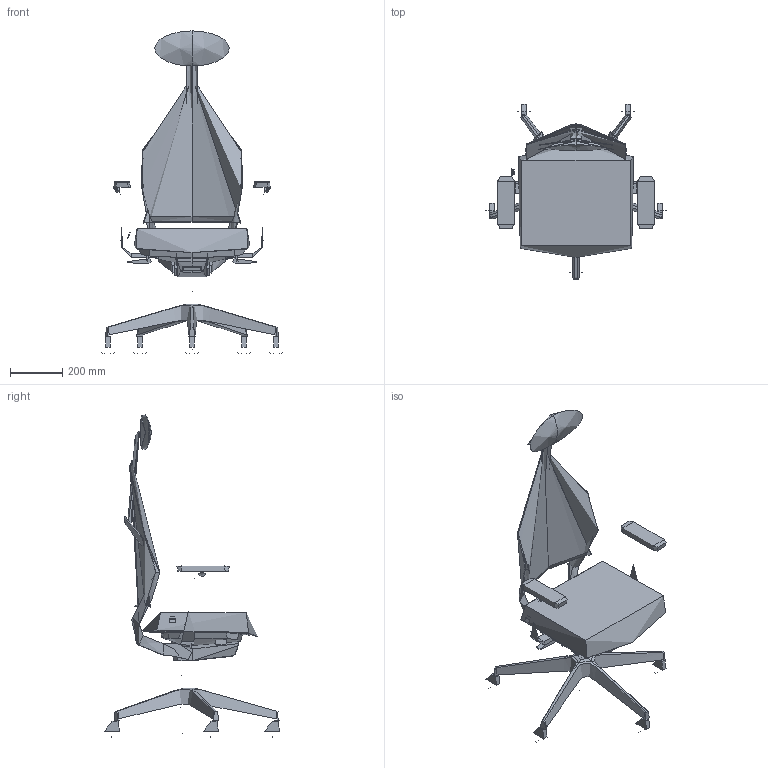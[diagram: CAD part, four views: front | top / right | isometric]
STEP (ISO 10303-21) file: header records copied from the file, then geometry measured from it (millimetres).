
FILE_DESCRIPTION(/* description */ (''),/* implementation_level */ '2;1');
FILE_NAME(/* name */ 'Arcus 240-SYAC,BR-235,HO',/* time_stamp */ '2023-06-13T22:46:43+02:00',/* author */ (''),/* organization */ (''),/* preprocessor_version */ 'ST-DEVELOPER v16.5',/* originating_system */ 'Rhino 7.29',/* authorisation */ '');
FILE_SCHEMA (('CONFIG_CONTROL_DESIGN'));
Length unit declared in the file: millimetre
Products named in the file (1): Document
Bounding box: 696.72 x 672.99 x 1237.9 mm (x, y, z)
Volume: 1499993.7 mm3; surface area: 2288646.9 mm2
Topology: 15 solids, 70 shells, 648 faces, 1610 edges, 1030 vertices
Faces by surface type: bspline 319, plane 233, cylinder 96
Full cylindrical faces by diameter (mm): 11 x5, 22.353 x1, 28 x1, 46 x1, 50 x1, 57 x1, 60 x4
Entity records: 62124 total; most frequent: CARTESIAN_POINT 52032, ORIENTED_EDGE 2933, EDGE_CURVE 1605, B_SPLINE_CURVE_WITH_KNOTS 1125, VERTEX_POINT 1030, EDGE_LOOP 656, ADVANCED_FACE 648, FACE_OUTER_BOUND 648
